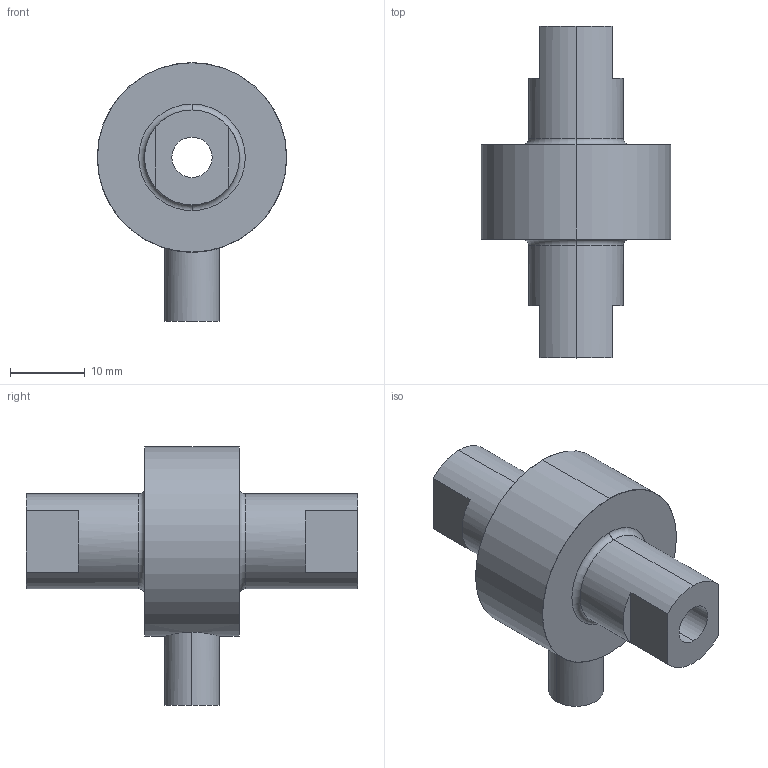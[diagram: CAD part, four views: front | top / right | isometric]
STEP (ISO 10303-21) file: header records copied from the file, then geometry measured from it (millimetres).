
FILE_DESCRIPTION (( 'STEP AP214' ), '1' );
FILE_NAME ('FINAL ASBY SS1321-3KN.STEP', '2024-08-13T14:48:07', ( '' ), ( '' ), 'SwSTEP 2.0', 'SolidWorks 2008', '' );
FILE_SCHEMA (( 'AUTOMOTIVE_DESIGN' ));
Length unit declared in the file: inch
Products named in the file (1): FINAL ASBY SS1321-3KN
Bounding box: 25.4 x 44.45 x 34.67 mm (x, y, z)
Volume: 9606.4 mm3; surface area: 4174.3 mm2
Topology: 1 solids, 1 shells, 31 faces, 73 edges, 46 vertices
Faces by surface type: plane 13, cylinder 10, cone 4, torus 4
Entity records: 1018 total; most frequent: CARTESIAN_POINT 219, DIRECTION 171, ORIENTED_EDGE 146, EDGE_CURVE 73, AXIS2_PLACEMENT_3D 70, VERTEX_POINT 46, CIRCLE 38, EDGE_LOOP 35
